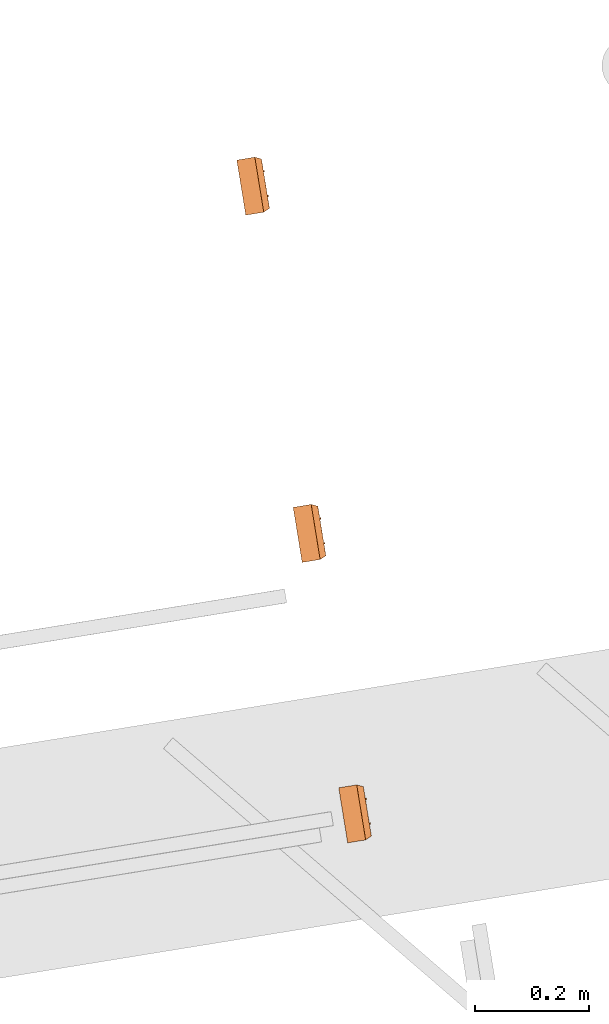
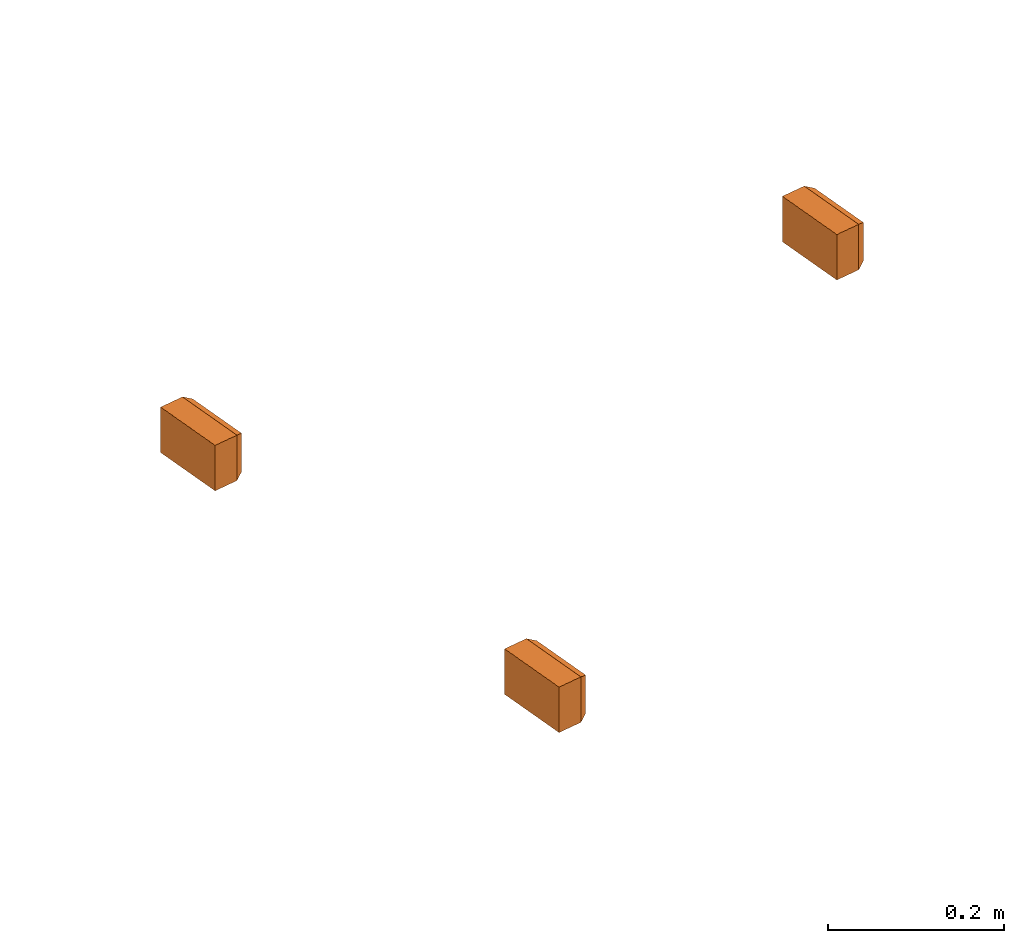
# One storey, part 18 of 33: 3 proxies.
"""IFC2X3 building model written with IfcOpenShell, lengths in millimetres."""

from ifc_helpers import new_model, entity, si_unit, converted_unit, derived_unit, direction, frame, frame_2d, origin, origin_with_axes, origin_2d_with_axis, place, context, subcontext, project, spatial, polyline, circle_curve, parameter, trimmed, segment, composite_curve, rectangle, circle, hollow_circle, outline, extrude, source, transform, mapped, material, type_object, element, save


model = new_model("IFC2X3")

# Units and contexts
plan_context = context("Plan", 3, precision=1e-05, world=origin_with_axes())
model_context = context("Model", 3, precision=0.01, world=origin(), true_north=direction((6.12323399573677e-17, 1.0)))
body_context = subcontext(model_context, "Body", "Model", "MODEL_VIEW")
ifc_project = project(units=[converted_unit("PLANEANGLEUNIT", "DEGREE", entity("IfcPositiveLengthMeasure", 0.0174532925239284), si_unit("PLANEANGLEUNIT", "RADIAN"), dimensions=[0, 0, 0, 0, 0, 0, 0]), si_unit("AREAUNIT", "SQUARE_METRE"), si_unit("LENGTHUNIT", "METRE", prefix="MILLI"), si_unit("MASSUNIT", "GRAM", prefix="KILO"), si_unit("POWERUNIT", "WATT"), si_unit("PRESSUREUNIT", "PASCAL", prefix="KILO"), si_unit("FORCEUNIT", "NEWTON", prefix="KILO"), si_unit("ELECTRICVOLTAGEUNIT", "VOLT"), si_unit("ELECTRICCURRENTUNIT", "AMPERE"), si_unit("THERMODYNAMICTEMPERATUREUNIT", "DEGREE_CELSIUS"), si_unit("TIMEUNIT", "SECOND"), si_unit("VOLUMEUNIT", "CUBIC_METRE"), derived_unit("LINEARVELOCITYUNIT", [(si_unit("LENGTHUNIT", "METRE"), 1), (si_unit("TIMEUNIT", "SECOND"), -1)]), derived_unit("VOLUMETRICFLOWRATEUNIT", [(si_unit("VOLUMEUNIT", "CUBIC_METRE"), 1), (si_unit("TIMEUNIT", "SECOND"), -1)]), derived_unit("THERMALTRANSMITTANCEUNIT", [(si_unit("POWERUNIT", "WATT"), 1), (si_unit("THERMODYNAMICTEMPERATUREUNIT", "KELVIN"), -1), (si_unit("AREAUNIT", "SQUARE_METRE"), -1)]), derived_unit("SOUNDPRESSUREUNIT", [(si_unit("PRESSUREUNIT", "PASCAL"), 1)])], contexts=[model_context, plan_context])

# Site, building, storey
site_placement = place(None, frame((-0.219946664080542, 0.12226179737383, 0.0), z_axis=(0.0, 0.0, 1.0), x_axis=(-0.160236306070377, 0.987078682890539, 0.0)))
site = spatial("IfcSite", under=ifc_project, at=site_placement, Name="Default", CompositionType="ELEMENT")
building_placement = place(site_placement, origin_with_axes())
building = spatial("IfcBuilding", under=site, at=building_placement, CompositionType="ELEMENT")
storey_placement = place(building_placement, frame((0.0, 0.0, 59000.0), z_axis=(0.0, 0.0, 1.0), x_axis=(1.0, 0.0, 0.0)))
storey = spatial("IfcBuildingStorey", under=building, at=storey_placement, Name="Nivå F", CompositionType="ELEMENT", Elevation=59000.0)

# Proxies
ifc_material = material(Name="<Unnamed>")
building_element_proxy_type = type_object("IfcBuildingElementProxyType", Name="Dobbel stikk på vegg 2P+J hor PH:EARTHED-SOCKET-2(HOR)", PredefinedType="NOTDEFINED", material=ifc_material)
shared_shape = source(origin(), body_context, "Body", "SweptSolid", [
    extrude(outline(composite_curve([segment(polyline([(-6.66666666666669, -6.66666666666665), (13.3333333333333, -6.66666666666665)]), True, "CONTINUOUS"), segment(trimmed(circle_curve(frame_2d((13.3333333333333, 13.3333333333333), x_axis=(0.0, -1.0)), 20.0), [parameter(270.0)], [parameter(5.08888749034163e-14)], True, "PARAMETER"), False, "CONTINUOUS"), segment(polyline([(-6.66666666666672, 13.3333333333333), (-6.66666666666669, -6.66666666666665)]), True, "CONTINUOUS")], self_intersect=False)), frame((35.3333333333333, 42.8999999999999, 13.3533333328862), z_axis=(0.0, 1.0, 0.0), x_axis=(0.0, 0.0, -1.0)), (0.0, 0.0, 1.0), 0.199999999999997),
    extrude(outline(composite_curve([segment(polyline([(-6.66666666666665, -6.66666666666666), (13.3333333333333, -6.66666666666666)]), True, "CONTINUOUS"), segment(trimmed(circle_curve(frame_2d((13.3333333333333, 13.3333333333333), x_axis=(-1.0, 0.0)), 20.0), [parameter(360.0)], [parameter(89.9999999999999)], True, "PARAMETER"), False, "CONTINUOUS"), segment(polyline([(-6.66666666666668, 13.3333333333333), (-6.66666666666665, -6.66666666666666)]), True, "CONTINUOUS")], self_intersect=False)), frame((35.3333333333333, 42.8999999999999, -13.3233333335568), z_axis=(0.0, 1.0, 0.0), x_axis=(-1.0, 0.0, 0.0)), (0.0, 0.0, 1.0), 0.199999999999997),
    extrude(outline(composite_curve([segment(polyline([(-6.66666666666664, -6.66666666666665), (13.3333333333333, -6.66666666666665)]), True, "CONTINUOUS"), segment(trimmed(circle_curve(frame_2d((13.3333333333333, 13.3333333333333), x_axis=(-1.0, 0.0)), 20.0), [parameter(0.0)], [parameter(89.9999999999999)], True, "PARAMETER"), False, "CONTINUOUS"), segment(polyline([(-6.66666666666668, 13.3333333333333), (-6.66666666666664, -6.66666666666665)]), True, "CONTINUOUS")], self_intersect=False)), frame((8.66666666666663, 42.8999999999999, 13.3433333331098), z_axis=(0.0, 1.0, 0.0), x_axis=(1.0, 0.0, 0.0)), (0.0, 0.0, 1.0), 0.199999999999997),
    extrude(outline(composite_curve([segment(polyline([(-6.66666666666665, -6.66666666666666), (13.3333333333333, -6.66666666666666)]), True, "CONTINUOUS"), segment(trimmed(circle_curve(frame_2d((13.3333333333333, 13.3333333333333), x_axis=(-1.0, 0.0)), 20.0), [parameter(360.0)], [parameter(89.9999999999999)], True, "PARAMETER"), False, "CONTINUOUS"), segment(polyline([(-6.66666666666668, 13.3333333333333), (-6.66666666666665, -6.66666666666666)]), True, "CONTINUOUS")], self_intersect=False)), frame((35.3333333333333, 42.8999999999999, -13.3433333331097), z_axis=(0.0, 1.0, 0.0), x_axis=(-1.0, 0.0, 0.0)), (0.0, 0.0, 1.0), 0.199999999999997),
    extrude(outline(composite_curve([segment(polyline([(-6.66666666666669, -6.66666666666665), (13.3333333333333, -6.66666666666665)]), True, "CONTINUOUS"), segment(trimmed(circle_curve(frame_2d((13.3333333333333, 13.3333333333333), x_axis=(0.0, -1.0)), 20.0), [parameter(270.0)], [parameter(5.08888749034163e-14)], True, "PARAMETER"), False, "CONTINUOUS"), segment(polyline([(-6.66666666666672, 13.3333333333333), (-6.66666666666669, -6.66666666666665)]), True, "CONTINUOUS")], self_intersect=False)), frame((35.3333333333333, 42.8999999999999, 13.3333333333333), z_axis=(0.0, 1.0, 0.0), x_axis=(0.0, 0.0, -1.0)), (0.0, 0.0, 1.0), 0.199999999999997),
    extrude(outline(composite_curve([segment(polyline([(-6.66666666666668, -6.66666666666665), (13.3333333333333, -6.66666666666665)]), True, "CONTINUOUS"), segment(trimmed(circle_curve(frame_2d((13.3333333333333, 13.3333333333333), x_axis=(0.0, -1.0)), 20.0), [parameter(270.0)], [parameter(0.0)], True, "PARAMETER"), False, "CONTINUOUS"), segment(polyline([(-6.66666666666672, 13.3333333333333), (-6.66666666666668, -6.66666666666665)]), True, "CONTINUOUS")], self_intersect=False)), frame((8.66666666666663, 42.8999999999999, -13.3333333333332), z_axis=(0.0, 1.0, 0.0), x_axis=(0.0, 0.0, 1.0)), (0.0, 0.0, 1.0), 0.199999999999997),
    extrude(outline(composite_curve([segment(polyline([(-6.66666666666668, -6.66666666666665), (13.3333333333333, -6.66666666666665)]), True, "CONTINUOUS"), segment(trimmed(circle_curve(frame_2d((13.3333333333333, 13.3333333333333), x_axis=(0.0, -1.0)), 20.0), [parameter(270.0)], [parameter(0.0)], True, "PARAMETER"), False, "CONTINUOUS"), segment(polyline([(-6.66666666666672, 13.3333333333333), (-6.66666666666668, -6.66666666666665)]), True, "CONTINUOUS")], self_intersect=False)), frame((-8.66666666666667, 42.8999999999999, 13.3533333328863), z_axis=(0.0, 1.0, 0.0), x_axis=(0.0, 0.0, -1.0)), (0.0, 0.0, 1.0), 0.199999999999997),
    extrude(outline(composite_curve([segment(polyline([(-6.66666666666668, -6.66666666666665), (13.3333333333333, -6.66666666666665)]), True, "CONTINUOUS"), segment(trimmed(circle_curve(frame_2d((13.3333333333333, 13.3333333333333), x_axis=(-1.0, 0.0)), 20.0), [parameter(0.0)], [parameter(90.0)], True, "PARAMETER"), False, "CONTINUOUS"), segment(polyline([(-6.66666666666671, 13.3333333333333), (-6.66666666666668, -6.66666666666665)]), True, "CONTINUOUS")], self_intersect=False)), frame((-8.66666666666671, 42.8999999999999, -13.3233333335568), z_axis=(0.0, 1.0, 0.0), x_axis=(-1.0, 0.0, 0.0)), (0.0, 0.0, 1.0), 0.199999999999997),
    extrude(outline(composite_curve([segment(polyline([(-6.66666666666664, -6.66666666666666), (13.3333333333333, -6.66666666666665)]), True, "CONTINUOUS"), segment(trimmed(circle_curve(frame_2d((13.3333333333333, 13.3333333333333), x_axis=(-1.0, 0.0)), 20.0), [parameter(360.0)], [parameter(89.9999999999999)], True, "PARAMETER"), False, "CONTINUOUS"), segment(polyline([(-6.66666666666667, 13.3333333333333), (-6.66666666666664, -6.66666666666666)]), True, "CONTINUOUS")], self_intersect=False)), frame((-35.3333333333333, 42.8999999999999, 13.3433333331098), z_axis=(0.0, 1.0, 0.0), x_axis=(1.0, 0.0, 0.0)), (0.0, 0.0, 1.0), 0.199999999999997),
    extrude(outline(composite_curve([segment(polyline([(-6.66666666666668, -6.66666666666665), (13.3333333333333, -6.66666666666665)]), True, "CONTINUOUS"), segment(trimmed(circle_curve(frame_2d((13.3333333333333, 13.3333333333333), x_axis=(-1.0, 0.0)), 20.0), [parameter(0.0)], [parameter(90.0)], True, "PARAMETER"), False, "CONTINUOUS"), segment(polyline([(-6.66666666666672, 13.3333333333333), (-6.66666666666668, -6.66666666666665)]), True, "CONTINUOUS")], self_intersect=False)), frame((-8.66666666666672, 42.8999999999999, -13.3433333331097), z_axis=(0.0, 1.0, 0.0), x_axis=(-1.0, 0.0, 0.0)), (0.0, 0.0, 1.0), 0.199999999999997),
    extrude(outline(composite_curve([segment(polyline([(-6.66666666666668, -6.66666666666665), (13.3333333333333, -6.66666666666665)]), True, "CONTINUOUS"), segment(trimmed(circle_curve(frame_2d((13.3333333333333, 13.3333333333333), x_axis=(0.0, -1.0)), 20.0), [parameter(270.0)], [parameter(0.0)], True, "PARAMETER"), False, "CONTINUOUS"), segment(polyline([(-6.66666666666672, 13.3333333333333), (-6.66666666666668, -6.66666666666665)]), True, "CONTINUOUS")], self_intersect=False)), frame((-8.66666666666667, 42.8999999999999, 13.3333333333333), z_axis=(0.0, 1.0, 0.0), x_axis=(0.0, 0.0, -1.0)), (0.0, 0.0, 1.0), 0.199999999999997),
    extrude(outline(composite_curve([segment(polyline([(-6.66666666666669, -6.66666666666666), (13.3333333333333, -6.66666666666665)]), True, "CONTINUOUS"), segment(trimmed(circle_curve(frame_2d((13.3333333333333, 13.3333333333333), x_axis=(0.0, -1.0)), 20.0), [parameter(270.0)], [parameter(5.08888749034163e-14)], True, "PARAMETER"), False, "CONTINUOUS"), segment(polyline([(-6.66666666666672, 13.3333333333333), (-6.66666666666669, -6.66666666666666)]), True, "CONTINUOUS")], self_intersect=False)), frame((-35.3333333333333, 42.8999999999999, -13.3333333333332), z_axis=(0.0, 1.0, 0.0), x_axis=(0.0, 0.0, 1.0)), (0.0, 0.0, 1.0), 0.199999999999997),
    extrude(rectangle(XDim=9.99999999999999, YDim=1.0, at=frame_2d((0.0, 2.1094237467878e-15), x_axis=(1.0, 0.0))), frame((22.0, 40.0, -17.6), z_axis=(0.0, 0.0, 1.0), x_axis=(0.0, -1.0, 0.0)), (0.0, 0.0, 1.0), 0.199999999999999),
    extrude(rectangle(XDim=21.5, YDim=1.0, at=frame_2d((0.0, 8.43769498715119e-15), x_axis=(1.0, 0.0))), frame((22.0, 32.25, -19.6), z_axis=(0.0, 0.0, 1.0), x_axis=(0.0, -1.0, 0.0)), (0.0, 0.0, 1.0), 0.200000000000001),
    extrude(rectangle(XDim=9.99999999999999, YDim=1.0, at=frame_2d((0.0, 2.1094237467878e-15), x_axis=(1.0, 0.0))), frame((22.0, 40.0, 17.4), z_axis=(0.0, 0.0, 1.0), x_axis=(0.0, -1.0, 0.0)), (0.0, 0.0, 1.0), 0.199999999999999),
    extrude(rectangle(XDim=21.5, YDim=1.0, at=frame_2d((0.0, 8.43769498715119e-15), x_axis=(1.0, 0.0))), frame((22.0, 32.25, 19.4), z_axis=(0.0, 0.0, 1.0), x_axis=(0.0, -1.0, 0.0)), (0.0, 0.0, 1.0), 0.200000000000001),
    extrude(rectangle(XDim=9.99999999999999, YDim=1.0, at=frame_2d((0.0, -2.1094237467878e-15), x_axis=(1.0, 0.0))), frame((-22.0, 40.0, -17.6), z_axis=(0.0, 0.0, 1.0), x_axis=(0.0, -1.0, 0.0)), (0.0, 0.0, 1.0), 0.199999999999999),
    extrude(rectangle(XDim=21.5, YDim=1.0, at=frame_2d((0.0, 8.43769498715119e-15), x_axis=(1.0, 0.0))), frame((-22.0, 32.25, -19.6), z_axis=(0.0, 0.0, 1.0), x_axis=(0.0, -1.0, 0.0)), (0.0, 0.0, 1.0), 0.200000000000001),
    extrude(rectangle(XDim=9.99999999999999, YDim=1.0, at=frame_2d((0.0, -2.1094237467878e-15), x_axis=(1.0, 0.0))), frame((-22.0, 40.0, 17.4), z_axis=(0.0, 0.0, 1.0), x_axis=(0.0, -1.0, 0.0)), (0.0, 0.0, 1.0), 0.199999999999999),
    extrude(rectangle(XDim=21.5, YDim=1.0, at=frame_2d((0.0, 8.43769498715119e-15), x_axis=(1.0, 0.0))), frame((-22.0, 32.25, 19.4), z_axis=(0.0, 0.0, 1.0), x_axis=(0.0, -1.0, 0.0)), (0.0, 0.0, 1.0), 0.200000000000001),
    extrude(rectangle(XDim=0.199999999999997, YDim=2.0, at=frame_2d((4.2257863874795e-15, 0.0), x_axis=(1.0, 0.0))), frame((43.0, 43.0, 0.0199999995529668), z_axis=(0.0, 0.0, 1.0), x_axis=(0.0, 1.0, 0.0)), (0.0, 0.0, 1.0), 20.0),
    extrude(rectangle(XDim=0.199999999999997, YDim=40.0, at=frame_2d((4.2257863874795e-15, 0.0), x_axis=(1.0, 0.0))), frame((22.0, 43.0, 20.0199999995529), z_axis=(0.0, 0.0, 1.0), x_axis=(0.0, 1.0, 0.0)), (0.0, 0.0, 1.0), 6.5),
    extrude(rectangle(XDim=0.199999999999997, YDim=2.0, at=frame_2d((4.2257863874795e-15, 0.0), x_axis=(1.0, 0.0))), frame((43.0, 43.0, -19.9900000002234), z_axis=(0.0, 0.0, 1.0), x_axis=(0.0, -1.0, 0.0)), (0.0, 0.0, 1.0), 20.0),
    extrude(rectangle(XDim=0.199999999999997, YDim=40.0, at=frame_2d((4.2257863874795e-15, 0.0), x_axis=(1.0, 0.0))), frame((22.0, 43.0, -26.4900000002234), z_axis=(0.0, 0.0, 1.0), x_axis=(0.0, -1.0, 0.0)), (0.0, 0.0, 1.0), 6.49999999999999),
    extrude(rectangle(XDim=0.199999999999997, YDim=2.0, at=frame_2d((4.2257863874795e-15, 0.0), x_axis=(1.0, 0.0))), frame((1.0, 43.0, 0.00999999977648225), z_axis=(0.0, 0.0, 1.0), x_axis=(0.0, -1.0, 0.0)), (0.0, 0.0, 1.0), 20.0),
    extrude(rectangle(XDim=0.199999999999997, YDim=2.0, at=frame_2d((4.2257863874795e-15, 0.0), x_axis=(1.0, 0.0))), frame((43.0, 43.0, -20.0099999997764), z_axis=(0.0, 0.0, 1.0), x_axis=(0.0, -1.0, 0.0)), (0.0, 0.0, 1.0), 20.0),
    extrude(rectangle(XDim=0.199999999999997, YDim=40.0, at=frame_2d((4.2257863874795e-15, 0.0), x_axis=(1.0, 0.0))), frame((22.0, 43.0, -26.5099999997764), z_axis=(0.0, 0.0, 1.0), x_axis=(0.0, -1.0, 0.0)), (0.0, 0.0, 1.0), 6.5),
    extrude(rectangle(XDim=0.199999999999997, YDim=2.0, at=frame_2d((4.2257863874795e-15, 0.0), x_axis=(1.0, 0.0))), frame((43.0, 43.0, 0.0), z_axis=(0.0, 0.0, 1.0), x_axis=(0.0, 1.0, 0.0)), (0.0, 0.0, 1.0), 20.0),
    extrude(rectangle(XDim=0.199999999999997, YDim=40.0, at=frame_2d((4.2257863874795e-15, 0.0), x_axis=(1.0, 0.0))), frame((22.0, 43.0, 20.0), z_axis=(0.0, 0.0, 1.0), x_axis=(0.0, 1.0, 0.0)), (0.0, 0.0, 1.0), 6.5),
    extrude(rectangle(XDim=0.199999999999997, YDim=2.0, at=frame_2d((4.2257863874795e-15, 0.0), x_axis=(1.0, 0.0))), frame((1.0, 43.0, -20.0), z_axis=(0.0, 0.0, 1.0), x_axis=(0.0, 1.0, 0.0)), (0.0, 0.0, 1.0), 20.0),
    extrude(rectangle(XDim=0.199999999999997, YDim=2.0, at=frame_2d((4.2257863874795e-15, 0.0), x_axis=(1.0, 0.0))), frame((-1.0, 43.0, 0.0199999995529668), z_axis=(0.0, 0.0, 1.0), x_axis=(0.0, 1.0, 0.0)), (0.0, 0.0, 1.0), 20.0),
    extrude(rectangle(XDim=0.199999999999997, YDim=40.0, at=frame_2d((4.2257863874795e-15, 0.0), x_axis=(1.0, 0.0))), frame((-22.0, 43.0, 20.0199999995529), z_axis=(0.0, 0.0, 1.0), x_axis=(0.0, 1.0, 0.0)), (0.0, 0.0, 1.0), 6.5),
    extrude(rectangle(XDim=0.199999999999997, YDim=2.0, at=frame_2d((4.2257863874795e-15, 0.0), x_axis=(1.0, 0.0))), frame((-1.0, 43.0, -19.9900000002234), z_axis=(0.0, 0.0, 1.0), x_axis=(0.0, -1.0, 0.0)), (0.0, 0.0, 1.0), 20.0),
    extrude(rectangle(XDim=0.199999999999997, YDim=40.0, at=frame_2d((4.2257863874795e-15, 0.0), x_axis=(1.0, 0.0))), frame((-22.0, 43.0, -26.4900000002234), z_axis=(0.0, 0.0, 1.0), x_axis=(0.0, -1.0, 0.0)), (0.0, 0.0, 1.0), 6.49999999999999),
    extrude(rectangle(XDim=0.199999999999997, YDim=1.99999999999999, at=frame_2d((4.2257863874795e-15, 4.2188474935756e-15), x_axis=(1.0, 0.0))), frame((-43.0, 43.0, 0.00999999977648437), z_axis=(0.0, 0.0, 1.0), x_axis=(0.0, -1.0, 0.0)), (0.0, 0.0, 1.0), 20.0),
    extrude(rectangle(XDim=0.199999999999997, YDim=2.0, at=frame_2d((4.2257863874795e-15, 0.0), x_axis=(1.0, 0.0))), frame((-1.0, 43.0, -20.0099999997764), z_axis=(0.0, 0.0, 1.0), x_axis=(0.0, -1.0, 0.0)), (0.0, 0.0, 1.0), 20.0),
    extrude(rectangle(XDim=0.199999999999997, YDim=40.0, at=frame_2d((4.2257863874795e-15, 0.0), x_axis=(1.0, 0.0))), frame((-22.0, 43.0, -26.5099999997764), z_axis=(0.0, 0.0, 1.0), x_axis=(0.0, -1.0, 0.0)), (0.0, 0.0, 1.0), 6.5),
    extrude(rectangle(XDim=0.199999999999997, YDim=2.0, at=frame_2d((4.2257863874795e-15, 0.0), x_axis=(1.0, 0.0))), frame((-1.0, 43.0, 0.0), z_axis=(0.0, 0.0, 1.0), x_axis=(0.0, 1.0, 0.0)), (0.0, 0.0, 1.0), 20.0),
    extrude(rectangle(XDim=0.199999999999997, YDim=40.0, at=frame_2d((4.2257863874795e-15, 0.0), x_axis=(1.0, 0.0))), frame((-22.0, 43.0, 20.0), z_axis=(0.0, 0.0, 1.0), x_axis=(0.0, 1.0, 0.0)), (0.0, 0.0, 1.0), 6.5),
    extrude(rectangle(XDim=0.199999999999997, YDim=1.99999999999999, at=frame_2d((4.2257863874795e-15, -4.2188474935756e-15), x_axis=(1.0, 0.0))), frame((-43.0, 43.0, -20.0), z_axis=(0.0, 0.0, 1.0), x_axis=(0.0, 1.0, 0.0)), (0.0, 0.0, 1.0), 20.0),
    extrude(rectangle(XDim=0.199999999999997, YDim=2.0, at=frame_2d((4.2257863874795e-15, 0.0), x_axis=(1.0, 0.0))), frame((-1.0, 43.0, -26.5), z_axis=(0.0, 0.0, 1.0), x_axis=(0.0, 1.0, 0.0)), (0.0, 0.0, 1.0), 6.49999999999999),
    extrude(rectangle(XDim=0.199999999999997, YDim=1.99999999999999, at=frame_2d((4.2257863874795e-15, 4.2188474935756e-15), x_axis=(1.0, 0.0))), frame((-43.0, 43.0, -26.5), z_axis=(0.0, 0.0, 1.0), x_axis=(0.0, 1.0, 0.0)), (0.0, 0.0, 1.0), 6.49999999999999),
    extrude(rectangle(XDim=0.199999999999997, YDim=2.0, at=frame_2d((4.2257863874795e-15, 0.0), x_axis=(1.0, 0.0))), frame((1.0, 43.0, -26.5), z_axis=(0.0, 0.0, 1.0), x_axis=(0.0, 1.0, 0.0)), (0.0, 0.0, 1.0), 6.49999999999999),
    extrude(rectangle(XDim=0.199999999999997, YDim=1.99999999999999, at=frame_2d((4.2257863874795e-15, -4.2188474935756e-15), x_axis=(1.0, 0.0))), frame((43.0, 43.0, -26.5), z_axis=(0.0, 0.0, 1.0), x_axis=(0.0, 1.0, 0.0)), (0.0, 0.0, 1.0), 6.49999999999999),
    extrude(outline(polyline([(-24.3180677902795, -42.966633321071), (-11.2413709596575, -42.9666333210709), (22.4062700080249, 38.3465652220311), (13.1531687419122, 47.5867014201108), (-24.3180677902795, -42.966633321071)])), frame((0.0, 37.5413802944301, -29.0910366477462), z_axis=(0.0, -0.413802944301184, 0.910366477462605), x_axis=(-0.382359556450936, 0.84119102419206, 0.382359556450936)), (0.0, 0.0, 1.0), 0.199999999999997),
    extrude(outline(polyline([(-31.5, -6.04152298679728), (31.5, -6.04152298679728), (26.5, 6.04152298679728), (-26.5, 6.04152298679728), (-31.5, -6.04152298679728)])), frame((-46.5910366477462, 37.5413802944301, 0.0), z_axis=(0.910366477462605, -0.413802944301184, 0.0), x_axis=(0.0, 0.0, -1.0)), (0.0, 0.0, 1.0), 0.200000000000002),
    extrude(outline(polyline([(-31.5, -6.04152298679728), (31.5, -6.04152298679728), (26.5, 6.04152298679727), (-26.5, 6.04152298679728), (-31.5, -6.04152298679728)])), frame((46.4089633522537, 37.4586197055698, 0.0), z_axis=(0.910366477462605, 0.413802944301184, 0.0), x_axis=(0.0, 0.0, -1.0)), (0.0, 0.0, 1.0), 0.199999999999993),
    extrude(rectangle(XDim=32.0, YDim=97.9999999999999, at=frame_2d((1.77635683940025e-15, 0.0), x_axis=(1.0, 0.0))), frame((0.0, 16.0, -31.6), z_axis=(0.0, 0.0, 1.0), x_axis=(0.0, -1.0, 0.0)), (0.0, 0.0, 1.0), 0.200000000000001),
    extrude(rectangle(XDim=0.199999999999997, YDim=2.0, at=frame_2d((4.2257863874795e-15, 0.0), x_axis=(1.0, 0.0))), frame((-1.0, 43.0, 20.0), z_axis=(0.0, 0.0, 1.0), x_axis=(0.0, 1.0, 0.0)), (0.0, 0.0, 1.0), 6.49999999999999),
    extrude(rectangle(XDim=0.199999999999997, YDim=1.99999999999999, at=frame_2d((4.2257863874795e-15, 4.2188474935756e-15), x_axis=(1.0, 0.0))), frame((-43.0, 43.0, 20.0), z_axis=(0.0, 0.0, 1.0), x_axis=(0.0, 1.0, 0.0)), (0.0, 0.0, 1.0), 6.49999999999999),
    extrude(outline(polyline([(-44.0, -6.04152298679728), (44.0, -6.04152298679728), (49.0, 6.04152298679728), (-49.0, 6.04152298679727), (-44.0, -6.04152298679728)])), frame((0.0, 37.4586197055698, 28.9089633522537), z_axis=(0.0, 0.413802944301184, 0.910366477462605), x_axis=(-1.0, 0.0, 0.0)), (0.0, 0.0, 1.0), 0.200000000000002),
    extrude(rectangle(XDim=0.199999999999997, YDim=2.0, at=frame_2d((4.2257863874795e-15, 0.0), x_axis=(1.0, 0.0))), frame((1.0, 43.0, 20.0), z_axis=(0.0, 0.0, 1.0), x_axis=(0.0, 1.0, 0.0)), (0.0, 0.0, 1.0), 6.49999999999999),
    extrude(rectangle(XDim=0.199999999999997, YDim=1.99999999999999, at=frame_2d((4.2257863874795e-15, -4.2188474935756e-15), x_axis=(1.0, 0.0))), frame((43.0, 43.0, 20.0), z_axis=(0.0, 0.0, 1.0), x_axis=(0.0, 1.0, 0.0)), (0.0, 0.0, 1.0), 6.49999999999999),
    extrude(rectangle(XDim=32.0, YDim=97.9999999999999, at=frame_2d((1.77635683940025e-15, 0.0), x_axis=(1.0, 0.0))), frame((0.0, 16.0, 31.4), z_axis=(0.0, 0.0, 1.0), x_axis=(0.0, -1.0, 0.0)), (0.0, 0.0, 1.0), 0.200000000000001),
    extrude(rectangle(XDim=0.199999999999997, YDim=32.0, at=frame_2d((-4.2257863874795e-15, 0.0), x_axis=(1.0, 0.0))), frame((49.0, 16.0, -31.5)), (0.0, 0.0, 1.0), 62.9999999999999),
    extrude(rectangle(XDim=0.199999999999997, YDim=32.0, at=frame_2d((-4.2257863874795e-15, 0.0), x_axis=(1.0, 0.0))), frame((-49.0, 16.0, -31.5)), (0.0, 0.0, 1.0), 62.9999999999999),
    extrude(rectangle(XDim=0.2, YDim=97.9999999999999, at=origin_2d_with_axis()), frame((0.0, 0.0, -31.5), z_axis=(0.0, 0.0, 1.0), x_axis=(0.0, 1.0, 0.0)), (0.0, 0.0, 1.0), 62.9999999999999),
    extrude(circle(Radius=2.5, at=frame_2d((0.0, -4.22994972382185e-15), x_axis=(1.0, 0.0))), frame((32.0, 21.450000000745, 0.0), z_axis=(0.0, 1.0, 0.0), x_axis=(0.0, 0.0, 1.0)), (0.0, 0.0, 1.0), 0.200000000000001),
    extrude(circle(Radius=2.5, at=frame_2d((0.0, -4.22994972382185e-15), x_axis=(1.0, 0.0))), frame((12.0, 21.450000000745, 0.0), z_axis=(0.0, 1.0, 0.0), x_axis=(0.0, 0.0, 1.0)), (0.0, 0.0, 1.0), 0.200000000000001),
    extrude(circle(Radius=2.5, at=frame_2d((0.0, -4.22994972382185e-15), x_axis=(1.0, 0.0))), frame((-12.0, 21.450000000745, 0.0), z_axis=(0.0, 1.0, 0.0), x_axis=(0.0, 0.0, 1.0)), (0.0, 0.0, 1.0), 0.200000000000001),
    extrude(circle(Radius=2.5, at=frame_2d((0.0, -4.22994972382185e-15), x_axis=(1.0, 0.0))), frame((-32.0, 21.450000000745, 0.0), z_axis=(0.0, 1.0, 0.0), x_axis=(0.0, 0.0, 1.0)), (0.0, 0.0, 1.0), 0.200000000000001),
    extrude(circle(Radius=20.0, at=frame_2d((0.0, -2.96096480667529e-14), x_axis=(1.0, 0.0))), frame((22.0, 21.4, 0.0), z_axis=(0.0, 1.0, 0.0), x_axis=(0.0, 0.0, 1.0)), (0.0, 0.0, 1.0), 0.200000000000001),
    extrude(circle(Radius=20.0, at=frame_2d((0.0, -2.96096480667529e-14), x_axis=(1.0, 0.0))), frame((-22.0, 21.4, 0.0), z_axis=(0.0, 1.0, 0.0), x_axis=(0.0, 0.0, 1.0)), (0.0, 0.0, 1.0), 0.200000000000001),
    extrude(outline(composite_curve([segment(trimmed(circle_curve(frame_2d((-0.800000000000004, 0.800000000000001), x_axis=(1.0, 0.0)), 2.0), [parameter(270.0)], [parameter(0.0)], True, "PARAMETER"), True, "CONTINUOUS"), segment(polyline([(1.2, 0.8), (0.399999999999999, 0.8)]), True, "CONTINUOUS"), segment(trimmed(circle_curve(frame_2d((-0.800000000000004, 0.799999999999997), x_axis=(0.0, -1.0)), 1.2), [parameter(0.0)], [parameter(89.9999999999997)], True, "PARAMETER"), False, "CONTINUOUS"), segment(polyline([(-0.799999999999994, -0.400000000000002), (-0.799999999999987, -1.2)]), True, "CONTINUOUS")], self_intersect=False)), frame((20.5, 43.7999999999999, -18.3), z_axis=(1.0, 0.0, 0.0), x_axis=(0.0, 1.0, 0.0)), (0.0, 0.0, 1.0), 2.0),
    extrude(outline(composite_curve([segment(polyline([(-1.2, -0.800000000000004), (-0.399999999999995, -0.800000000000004)]), True, "CONTINUOUS"), segment(trimmed(circle_curve(frame_2d((0.800000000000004, -0.800000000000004), x_axis=(-1.0, 0.0)), 1.2), [parameter(270.0)], [parameter(0.0)], True, "PARAMETER"), False, "CONTINUOUS"), segment(polyline([(0.799999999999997, 0.399999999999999), (0.79999999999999, 1.2)]), True, "CONTINUOUS"), segment(trimmed(circle_curve(frame_2d((0.800000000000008, -0.800000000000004), x_axis=(0.0, 1.0)), 2.0), [parameter(0.0)], [parameter(89.9999999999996)], True, "PARAMETER"), True, "CONTINUOUS")], self_intersect=False)), frame((21.5, 43.8, 18.3), z_axis=(1.0, 0.0, 0.0), x_axis=(0.0, 0.0, -1.0)), (0.0, 0.0, 1.0), 2.0),
    extrude(outline(composite_curve([segment(trimmed(circle_curve(frame_2d((-0.800000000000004, 0.800000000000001), x_axis=(1.0, 0.0)), 2.0), [parameter(270.0)], [parameter(0.0)], True, "PARAMETER"), True, "CONTINUOUS"), segment(polyline([(1.2, 0.8), (0.399999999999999, 0.8)]), True, "CONTINUOUS"), segment(trimmed(circle_curve(frame_2d((-0.800000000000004, 0.799999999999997), x_axis=(0.0, -1.0)), 1.2), [parameter(0.0)], [parameter(89.9999999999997)], True, "PARAMETER"), False, "CONTINUOUS"), segment(polyline([(-0.799999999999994, -0.400000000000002), (-0.799999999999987, -1.2)]), True, "CONTINUOUS")], self_intersect=False)), frame((-23.5, 43.7999999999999, -18.3), z_axis=(1.0, 0.0, 0.0), x_axis=(0.0, 1.0, 0.0)), (0.0, 0.0, 1.0), 2.0),
    extrude(outline(composite_curve([segment(polyline([(-1.2, -0.800000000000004), (-0.399999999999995, -0.800000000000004)]), True, "CONTINUOUS"), segment(trimmed(circle_curve(frame_2d((0.800000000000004, -0.800000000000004), x_axis=(-1.0, 0.0)), 1.2), [parameter(270.0)], [parameter(0.0)], True, "PARAMETER"), False, "CONTINUOUS"), segment(polyline([(0.799999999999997, 0.399999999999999), (0.79999999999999, 1.2)]), True, "CONTINUOUS"), segment(trimmed(circle_curve(frame_2d((0.800000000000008, -0.800000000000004), x_axis=(0.0, 1.0)), 2.0), [parameter(0.0)], [parameter(89.9999999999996)], True, "PARAMETER"), True, "CONTINUOUS")], self_intersect=False)), frame((-22.5, 43.8, 18.3), z_axis=(1.0, 0.0, 0.0), x_axis=(0.0, 0.0, -1.0)), (0.0, 0.0, 1.0), 2.0),
    extrude(hollow_circle(Radius=20.0, WallThickness=0.199999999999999, at=frame_2d((0.0, -2.96096480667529e-14), x_axis=(1.0, 0.0))), frame((22.0, 21.5, 0.0), z_axis=(0.0, 1.0, 0.0), x_axis=(0.0, 0.0, 1.0)), (0.0, 0.0, 1.0), 21.5),
    extrude(hollow_circle(Radius=20.0, WallThickness=0.199999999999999, at=frame_2d((0.0, -2.96096480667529e-14), x_axis=(1.0, 0.0))), frame((-22.0, 21.5, 0.0), z_axis=(0.0, 1.0, 0.0), x_axis=(0.0, 0.0, 1.0)), (0.0, 0.0, 1.0), 21.5),
])
for number, where, z_axis, x_axis in (
    (1, (775462.775261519, -501772.580498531, 2000.0), (0.0, 0.0, 1.0), (-1.0, 0.0, 0.0)),
    (2, (775962.775261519, -501772.580498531, 1100.0), (0.0, 0.0, 1.0), (-1.0, 0.0, 0.0)),
    (3, (776581.925573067, -501772.580498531, 1100.0), (0.0, 0.0, 1.0), (-1.0, 0.0, 0.0)),
):
    element("IfcBuildingElementProxy", number, at=place(storey_placement, frame(where, z_axis=z_axis, x_axis=x_axis)), inside=storey, type_object=building_element_proxy_type, material=ifc_material, Name="Dobbel stikk på vegg 2P+J hor PH:EARTHED-SOCKET-2(HOR)", ObjectType="Dobbel stikk på vegg 2P+J hor PH:EARTHED-SOCKET-2(HOR)", context=body_context, shape_type="MappedRepresentation", body=[
        mapped(shared_shape, transform((0.0, 0.0, 0.0), scale=1.0)),
    ])

save(model, "model.ifc")
